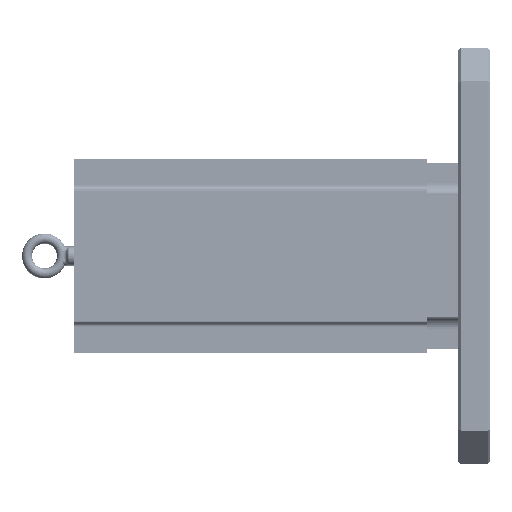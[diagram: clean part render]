
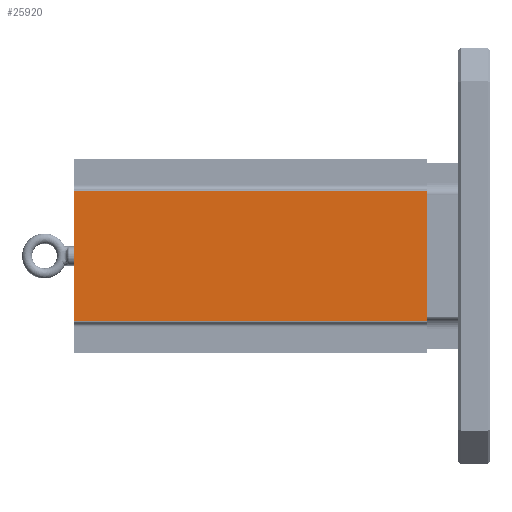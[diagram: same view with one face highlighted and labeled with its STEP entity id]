
A CAD part, left-side view. The second image highlights one B-rep face of the part: STEP entity #25920.
In plain terms, the highlighted planar face has unit normal (-1, 0, 0).
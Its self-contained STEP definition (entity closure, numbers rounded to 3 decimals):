
#264 = EDGE_CURVE ( 'NONE', #31668, #33764, #6027, .T. ) ;
#853 = EDGE_CURVE ( 'NONE', #4505, #22513, #16819, .T. ) ;
#944 = CARTESIAN_POINT ( 'NONE',  ( -116.992, 38.1, 78.511 ) ) ;
#1556 = DIRECTION ( 'NONE',  ( 0., 0., -1. ) ) ;
#3619 = DIRECTION ( 'NONE',  ( 0., 0., -1. ) ) ;
#4505 = VERTEX_POINT ( 'NONE', #11678 ) ;
#5337 = LINE ( 'NONE', #30920, #9351 ) ;
#5445 = EDGE_CURVE ( 'NONE', #31668, #22513, #28398, .T. ) ;
#6027 = LINE ( 'NONE', #21618, #25402 ) ;
#9287 = DIRECTION ( 'NONE',  ( 0., 0., 1. ) ) ;
#9351 = VECTOR ( 'NONE', #13211, 1000. ) ;
#10525 = ORIENTED_EDGE ( 'NONE', *, *, #264, .F. ) ;
#11625 = DIRECTION ( 'NONE',  ( 0., 1., 0. ) ) ;
#11678 = CARTESIAN_POINT ( 'NONE',  ( -116.992, 462., -78.511 ) ) ;
#13211 = DIRECTION ( 'NONE',  ( 0., -1., 0. ) ) ;
#13588 = AXIS2_PLACEMENT_3D ( 'NONE', #27809, #16980, #1556 ) ;
#14074 = CARTESIAN_POINT ( 'NONE',  ( -116.992, 462., -79.273 ) ) ;
#16759 = CARTESIAN_POINT ( 'NONE',  ( -116.992, 462., 78.511 ) ) ;
#16819 = LINE ( 'NONE', #14074, #19387 ) ;
#16980 = DIRECTION ( 'NONE',  ( 1., 0., 0. ) ) ;
#17324 = FACE_OUTER_BOUND ( 'NONE', #18797, .T. ) ;
#18797 = EDGE_LOOP ( 'NONE', ( #10525, #25036, #25055, #18896 ) ) ;
#18896 = ORIENTED_EDGE ( 'NONE', *, *, #24675, .T. ) ;
#19387 = VECTOR ( 'NONE', #9287, 1000. ) ;
#21618 = CARTESIAN_POINT ( 'NONE',  ( -116.992, 38.1, -79.273 ) ) ;
#22133 = PLANE ( 'NONE',  #13588 ) ;
#22513 = VERTEX_POINT ( 'NONE', #32099 ) ;
#23965 = CARTESIAN_POINT ( 'NONE',  ( -116.992, 38.1, -78.511 ) ) ;
#24675 = EDGE_CURVE ( 'NONE', #4505, #33764, #5337, .T. ) ;
#25036 = ORIENTED_EDGE ( 'NONE', *, *, #5445, .T. ) ;
#25055 = ORIENTED_EDGE ( 'NONE', *, *, #853, .F. ) ;
#25402 = VECTOR ( 'NONE', #3619, 1000. ) ;
#25824 = VECTOR ( 'NONE', #11625, 1000. ) ;
#25920 = ADVANCED_FACE ( 'NONE', ( #17324 ), #22133, .F. ) ;
#27809 = CARTESIAN_POINT ( 'NONE',  ( -116.992, 462., -79.273 ) ) ;
#28398 = LINE ( 'NONE', #16759, #25824 ) ;
#30920 = CARTESIAN_POINT ( 'NONE',  ( -116.992, 462., -78.511 ) ) ;
#31668 = VERTEX_POINT ( 'NONE', #944 ) ;
#32099 = CARTESIAN_POINT ( 'NONE',  ( -116.992, 462., 78.511 ) ) ;
#33764 = VERTEX_POINT ( 'NONE', #23965 ) ;
